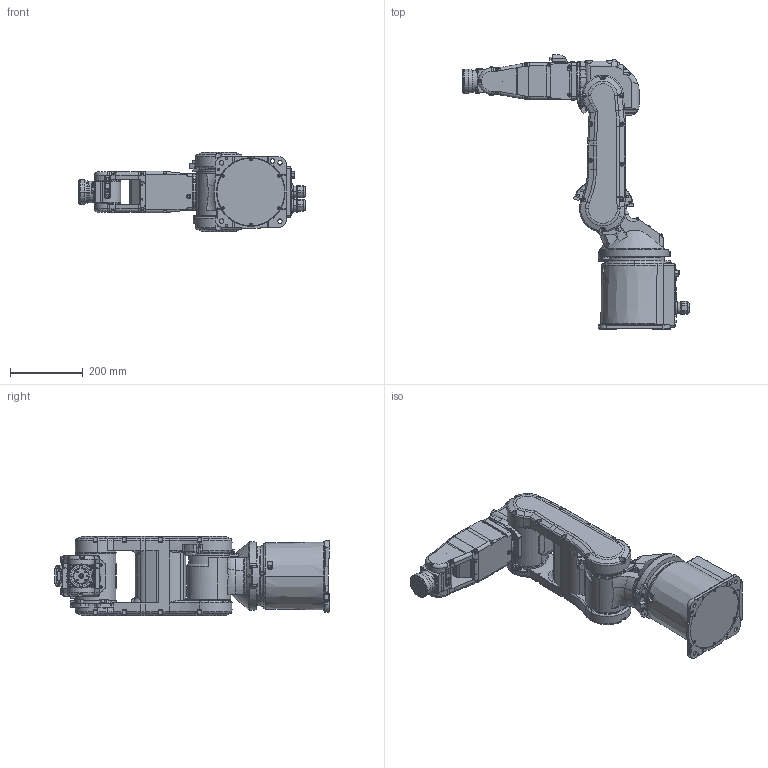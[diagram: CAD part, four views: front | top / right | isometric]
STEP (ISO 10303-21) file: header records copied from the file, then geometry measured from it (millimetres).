
FILE_DESCRIPTION( ( '' ), '1' );
FILE_NAME( '//expscmdclustefs.cadenas.external/client_exchange/iodir/jobs/output/wkb51546379_no0/STEP/S5_A701PW_2_03.stp', '2012-11-23T13:07:02', ( '' ), ( '' ), ' ', ' ', ' ' );
FILE_SCHEMA( ( 'CONFIG_CONTROL_DESIGN' ) );
Length unit declared in the file: millimetre
Products named in the file (7): 1; 2; 3; 4; 5; 6; 7
Bounding box: 623.2 x 752 x 218 mm (x, y, z)
Volume: 19498080.7 mm3; surface area: 1010367.9 mm2
Topology: 7 solids, 7 shells, 3295 faces, 8477 edges, 5526 vertices
Faces by surface type: plane 1701, cylinder 1029, torus 330, cone 234, sphere 1
Entity records: 106617 total; most frequent: CARTESIAN_POINT 24247, DIRECTION 17710, ORIENTED_EDGE 16890, EDGE_CURVE 8445, AXIS2_PLACEMENT_3D 6526, VERTEX_POINT 5526, LINE 4658, VECTOR 4658
